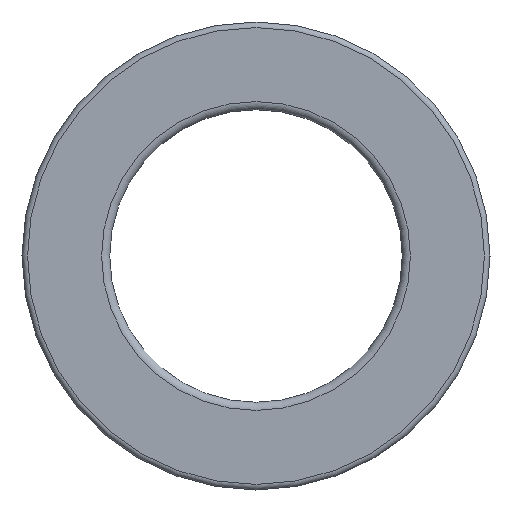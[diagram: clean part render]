
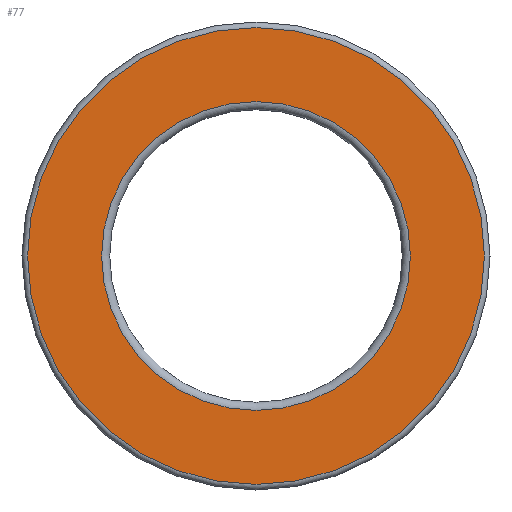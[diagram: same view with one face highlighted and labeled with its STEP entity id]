
A CAD part, left-side view. The second image highlights one B-rep face of the part: STEP entity #77.
In plain terms, the highlighted planar face has unit normal (-1, 0, 0).
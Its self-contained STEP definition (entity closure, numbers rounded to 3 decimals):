
#77=ADVANCED_FACE('',(#106,#107),#108,.F.);
#106=FACE_BOUND('',#178,.T.);
#107=FACE_OUTER_BOUND('',#179,.T.);
#108=PLANE('',#180);
#178=EDGE_LOOP('',(#254));
#179=EDGE_LOOP('',(#255));
#180=AXIS2_PLACEMENT_3D('',#256,#257,#258);
#254=ORIENTED_EDGE('',*,*,#366,.F.);
#255=ORIENTED_EDGE('',*,*,#367,.T.);
#256=CARTESIAN_POINT('',(0.0,15.619,0.0));
#257=DIRECTION('',(1.0,0.0,0.0));
#258=DIRECTION('',(0.0,0.0,-1.0));
#366=EDGE_CURVE('',#392,#392,#393,.T.);
#367=EDGE_CURVE('',#394,#394,#395,.T.);
#392=VERTEX_POINT('',#440);
#393=CIRCLE('',#441,10.558);
#394=VERTEX_POINT('',#442);
#395=CIRCLE('',#443,15.619);
#440=CARTESIAN_POINT('',(0.0,0.0,10.558));
#441=AXIS2_PLACEMENT_3D('',#490,#491,#492);
#442=CARTESIAN_POINT('',(0.0,0.0,15.619));
#443=AXIS2_PLACEMENT_3D('',#493,#494,#495);
#490=CARTESIAN_POINT('',(0.0,0.0,0.0));
#491=DIRECTION('',(-1.0,0.0,0.0));
#492=DIRECTION('',(0.0,0.0,1.0));
#493=CARTESIAN_POINT('',(0.0,0.0,0.0));
#494=DIRECTION('',(-1.0,0.0,0.0));
#495=DIRECTION('',(0.0,0.0,1.0));
